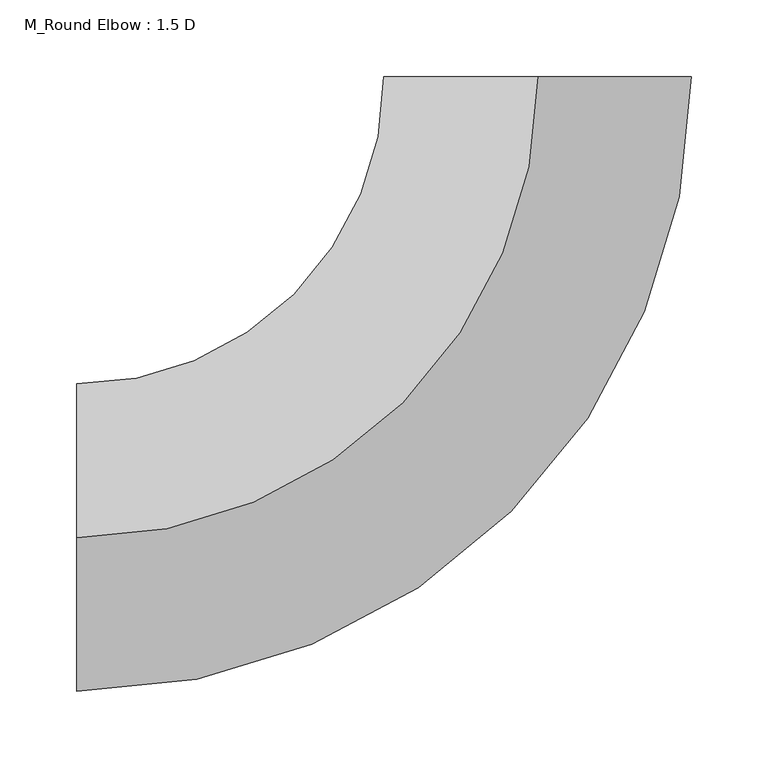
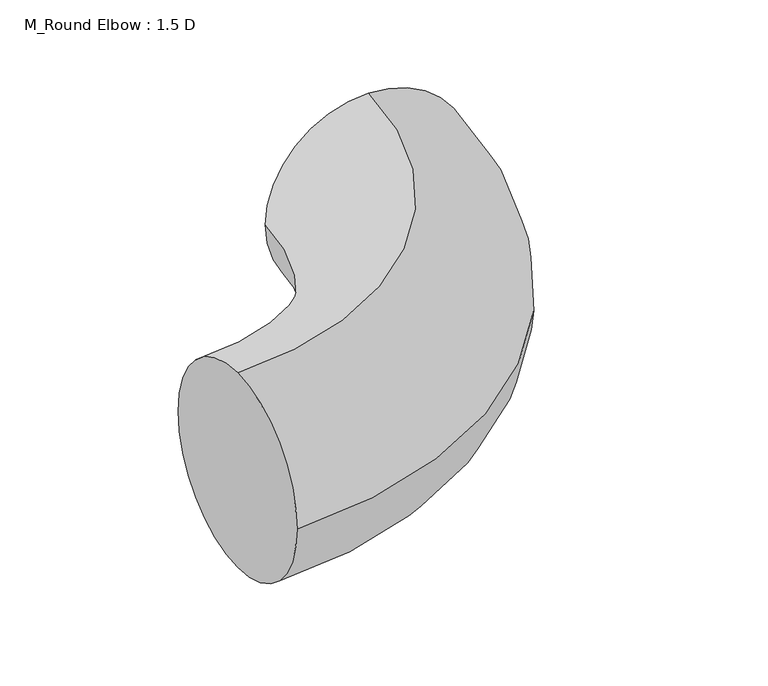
"""IFC4 building model written with IfcOpenShell, lengths in millimetres: duct fitting geometry, M_Round Elbow : 1.5 D."""

from ifc_helpers import new_model, si_unit, point, frame, origin, place, context, project, spatial, circle_curve, ellipse_curve, trimmed, source, transform, mapped, element, save
from ifc_brep_helpers import plane_surface, revolved_surface, advanced_brep


def m_round_elbow_1_5_d_ef943c7d(model_context):
    return source(origin(), model_context, "Body", "AdvancedBrep", [
        advanced_brep(
        [(-299.9996312, 0.0, 100.0), (-299.9996312, 100.0, 0.0), (-299.9996312, 0.0, -100.0), (-299.9996312, -100.0, 0.0), (0.0003688, 299.9996312, 100.0), (100.0003688, 299.9995082, 0.0), (0.0003688, 299.9996312, -100.0), (-99.9996312, 299.9997541, 0.0)],
        [
            (0, 1, circle_curve(frame((-299.9996312, 0.0, 0.0), z_axis=(-1.0, 0.0, 0.0), x_axis=(0.0, 1.0, 0.0)), 100.0)),
            (1, 2, circle_curve(frame((-299.9996312, 0.0, 0.0), z_axis=(-1.0, 0.0, 0.0), x_axis=(0.0, 1.0, 0.0)), 100.0)),
            (2, 3, circle_curve(frame((-299.9996312, 0.0, 0.0), z_axis=(-1.0, 0.0, 0.0), x_axis=(0.0, 1.0, 0.0)), 100.0)),
            (3, 0, circle_curve(frame((-299.9996312, 0.0, 0.0), z_axis=(-1.0, 0.0, 0.0), x_axis=(0.0, 1.0, 0.0)), 100.0)),
            (4, 5, circle_curve(frame((0.0003688, 299.9996312, 0.0), z_axis=(1.2294115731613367e-06, 0.9999999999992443, 0.0), x_axis=(-0.9999999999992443, 1.2294115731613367e-06, 0.0)), 100.0)),
            (5, 6, circle_curve(frame((0.0003688, 299.9996312, 0.0), z_axis=(1.2294115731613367e-06, 0.9999999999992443, 0.0), x_axis=(-0.9999999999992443, 1.2294115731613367e-06, 0.0)), 100.0)),
            (6, 7, circle_curve(frame((0.0003688, 299.9996312, 0.0), z_axis=(1.2294115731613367e-06, 0.9999999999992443, 0.0), x_axis=(-0.9999999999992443, 1.2294115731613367e-06, 0.0)), 100.0)),
            (7, 4, circle_curve(frame((0.0003688, 299.9996312, 0.0), z_axis=(1.2294115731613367e-06, 0.9999999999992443, 0.0), x_axis=(-0.9999999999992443, 1.2294115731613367e-06, 0.0)), 100.0)),
            (7, 1, circle_curve(frame((-299.9996312, 300.0, 0.0), z_axis=(0.0, 0.0, -1.0), x_axis=(0.0, -1.0, 0.0)), 200.0)),
            (0, 4, circle_curve(frame((-299.9996312, 300.0, 100.0), z_axis=(0.0, 0.0, 1.0), x_axis=(0.0, -1.0, 0.0)), 300.0)),
            (6, 2, circle_curve(frame((-299.9996312, 300.0, -100.0), z_axis=(0.0, 0.0, -1.0), x_axis=(0.0, -1.0, 0.0)), 300.0)),
            (5, 3, circle_curve(frame((-299.9996312, 300.0, 0.0), z_axis=(0.0, 0.0, -1.0), x_axis=(0.0, -1.0, 0.0)), 400.0)),
        ],
        [
            plane_surface(frame((-299.9996312, 0.0, 0.0), z_axis=(-1.0, 0.0, 0.0), x_axis=(0.0, 0.0, 1.0))),
            plane_surface(frame((0.0003688, 299.9996312, 0.0), z_axis=(1.2294115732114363e-06, 0.9999999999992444, 0.0), x_axis=(0.0, 0.0, 1.0))),
            revolved_surface(trimmed(ellipse_curve(frame((-299.9996312, 0.0, 0.0), z_axis=(-1.0, 0.0, 0.0), x_axis=(0.0, 1.0, 0.0)), 100.0, 100.0), [point((-299.9996312, 0.0, 100.0))], [point((-299.9996312, 100.0, 0.0))], True, "CARTESIAN"), (-299.9996312, 300.0, 0.0), (0.0, 0.0, 1.0)),
            revolved_surface(trimmed(ellipse_curve(frame((-299.9996312, 0.0, 0.0), z_axis=(-1.0, 0.0, 0.0), x_axis=(0.0, 1.0, 0.0)), 100.0, 100.0), [point((-299.9996312, 100.0, 0.0))], [point((-299.9996312, 0.0, -100.0))], True, "CARTESIAN"), (-299.9996312, 300.0, 0.0), (0.0, 0.0, 1.0)),
            revolved_surface(trimmed(ellipse_curve(frame((-299.9996312, 0.0, 0.0), z_axis=(-1.0, 0.0, 0.0), x_axis=(0.0, 1.0, 0.0)), 100.0, 100.0), [point((-299.9996312, 0.0, -100.0))], [point((-299.9996312, -100.0, 0.0))], True, "CARTESIAN"), (-299.9996312, 300.0, 0.0), (0.0, 0.0, 1.0)),
            revolved_surface(trimmed(ellipse_curve(frame((-299.9996312, 0.0, 0.0), z_axis=(-1.0, 0.0, 0.0), x_axis=(0.0, 1.0, 0.0)), 100.0, 100.0), [point((-299.9996312, -100.0, 0.0))], [point((-299.9996312, 0.0, 100.0))], True, "CARTESIAN"), (-299.9996312, 300.0, 0.0), (0.0, 0.0, 1.0)),
        ],
        [
            (0, [[1, 2, 3, 4]]),
            (1, [[5, 6, 7, 8]]),
            (2, [[9, -1, 10, -8]]),
            (3, [[11, -2, -9, -7]]),
            (4, [[12, -3, -11, -6]]),
            (5, [[-10, -4, -12, -5]]),
        ],
    ),
        advanced_brep(
        [(-299.9996312, 0.0, 100.0), (-299.9996312, 100.0, 0.0), (-299.9996312, 0.0, -100.0), (-299.9996312, -100.0, 0.0), (0.0003688, 299.9996312, 100.0), (100.0003688, 299.9995082, 0.0), (0.0003688, 299.9996312, -100.0), (-99.9996312, 299.9997541, 0.0)],
        [
            (0, 1, circle_curve(frame((-299.9996312, 0.0, 0.0), z_axis=(-1.0, 0.0, 0.0), x_axis=(0.0, 1.0, 0.0)), 100.0)),
            (1, 2, circle_curve(frame((-299.9996312, 0.0, 0.0), z_axis=(-1.0, 0.0, 0.0), x_axis=(0.0, 1.0, 0.0)), 100.0)),
            (2, 3, circle_curve(frame((-299.9996312, 0.0, 0.0), z_axis=(-1.0, 0.0, 0.0), x_axis=(0.0, 1.0, 0.0)), 100.0)),
            (3, 0, circle_curve(frame((-299.9996312, 0.0, 0.0), z_axis=(-1.0, 0.0, 0.0), x_axis=(0.0, 1.0, 0.0)), 100.0)),
            (4, 5, circle_curve(frame((0.0003688, 299.9996312, 0.0), z_axis=(1.2294115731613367e-06, 0.9999999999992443, 0.0), x_axis=(-0.9999999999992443, 1.2294115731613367e-06, 0.0)), 100.0)),
            (5, 6, circle_curve(frame((0.0003688, 299.9996312, 0.0), z_axis=(1.2294115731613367e-06, 0.9999999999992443, 0.0), x_axis=(-0.9999999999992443, 1.2294115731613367e-06, 0.0)), 100.0)),
            (6, 7, circle_curve(frame((0.0003688, 299.9996312, 0.0), z_axis=(1.2294115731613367e-06, 0.9999999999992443, 0.0), x_axis=(-0.9999999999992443, 1.2294115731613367e-06, 0.0)), 100.0)),
            (7, 4, circle_curve(frame((0.0003688, 299.9996312, 0.0), z_axis=(1.2294115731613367e-06, 0.9999999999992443, 0.0), x_axis=(-0.9999999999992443, 1.2294115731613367e-06, 0.0)), 100.0)),
            (7, 1, circle_curve(frame((-299.9996312, 300.0, 0.0), z_axis=(0.0, 0.0, -1.0), x_axis=(0.0, -1.0, 0.0)), 200.0)),
            (0, 4, circle_curve(frame((-299.9996312, 300.0, 100.0), z_axis=(0.0, 0.0, 1.0), x_axis=(0.0, -1.0, 0.0)), 300.0)),
            (6, 2, circle_curve(frame((-299.9996312, 300.0, -100.0), z_axis=(0.0, 0.0, -1.0), x_axis=(0.0, -1.0, 0.0)), 300.0)),
            (5, 3, circle_curve(frame((-299.9996312, 300.0, 0.0), z_axis=(0.0, 0.0, -1.0), x_axis=(0.0, -1.0, 0.0)), 400.0)),
        ],
        [
            plane_surface(frame((-299.9996312, 0.0, 0.0), z_axis=(-1.0, 0.0, 0.0), x_axis=(0.0, 0.0, 1.0))),
            plane_surface(frame((0.0003688, 299.9996312, 0.0), z_axis=(1.2294115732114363e-06, 0.9999999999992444, 0.0), x_axis=(0.0, 0.0, 1.0))),
            revolved_surface(trimmed(ellipse_curve(frame((-299.9996312, 0.0, 0.0), z_axis=(-1.0, 0.0, 0.0), x_axis=(0.0, 1.0, 0.0)), 100.0, 100.0), [point((-299.9996312, 0.0, 100.0))], [point((-299.9996312, 100.0, 0.0))], True, "CARTESIAN"), (-299.9996312, 300.0, 0.0), (0.0, 0.0, 1.0)),
            revolved_surface(trimmed(ellipse_curve(frame((-299.9996312, 0.0, 0.0), z_axis=(-1.0, 0.0, 0.0), x_axis=(0.0, 1.0, 0.0)), 100.0, 100.0), [point((-299.9996312, 100.0, 0.0))], [point((-299.9996312, 0.0, -100.0))], True, "CARTESIAN"), (-299.9996312, 300.0, 0.0), (0.0, 0.0, 1.0)),
            revolved_surface(trimmed(ellipse_curve(frame((-299.9996312, 0.0, 0.0), z_axis=(-1.0, 0.0, 0.0), x_axis=(0.0, 1.0, 0.0)), 100.0, 100.0), [point((-299.9996312, 0.0, -100.0))], [point((-299.9996312, -100.0, 0.0))], True, "CARTESIAN"), (-299.9996312, 300.0, 0.0), (0.0, 0.0, 1.0)),
            revolved_surface(trimmed(ellipse_curve(frame((-299.9996312, 0.0, 0.0), z_axis=(-1.0, 0.0, 0.0), x_axis=(0.0, 1.0, 0.0)), 100.0, 100.0), [point((-299.9996312, -100.0, 0.0))], [point((-299.9996312, 0.0, 100.0))], True, "CARTESIAN"), (-299.9996312, 300.0, 0.0), (0.0, 0.0, 1.0)),
        ],
        [
            (0, [[1, 2, 3, 4]]),
            (1, [[5, 6, 7, 8]]),
            (2, [[9, -1, 10, -8]]),
            (3, [[11, -2, -9, -7]]),
            (4, [[12, -3, -11, -6]]),
            (5, [[-10, -4, -12, -5]]),
        ],
    ),
        advanced_brep(
        [(-299.9996312, 0.0, 100.0), (-299.9996312, 100.0, 0.0), (-299.9996312, 0.0, -100.0), (-299.9996312, -100.0, 0.0), (0.0003688, 299.9996312, 100.0), (100.0003688, 299.9995082, 0.0), (0.0003688, 299.9996312, -100.0), (-99.9996312, 299.9997541, 0.0)],
        [
            (0, 1, circle_curve(frame((-299.9996312, 0.0, 0.0), z_axis=(-1.0, 0.0, 0.0), x_axis=(0.0, 1.0, 0.0)), 100.0)),
            (1, 2, circle_curve(frame((-299.9996312, 0.0, 0.0), z_axis=(-1.0, 0.0, 0.0), x_axis=(0.0, 1.0, 0.0)), 100.0)),
            (2, 3, circle_curve(frame((-299.9996312, 0.0, 0.0), z_axis=(-1.0, 0.0, 0.0), x_axis=(0.0, 1.0, 0.0)), 100.0)),
            (3, 0, circle_curve(frame((-299.9996312, 0.0, 0.0), z_axis=(-1.0, 0.0, 0.0), x_axis=(0.0, 1.0, 0.0)), 100.0)),
            (4, 5, circle_curve(frame((0.0003688, 299.9996312, 0.0), z_axis=(1.2294115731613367e-06, 0.9999999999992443, 0.0), x_axis=(-0.9999999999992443, 1.2294115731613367e-06, 0.0)), 100.0)),
            (5, 6, circle_curve(frame((0.0003688, 299.9996312, 0.0), z_axis=(1.2294115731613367e-06, 0.9999999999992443, 0.0), x_axis=(-0.9999999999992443, 1.2294115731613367e-06, 0.0)), 100.0)),
            (6, 7, circle_curve(frame((0.0003688, 299.9996312, 0.0), z_axis=(1.2294115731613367e-06, 0.9999999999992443, 0.0), x_axis=(-0.9999999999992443, 1.2294115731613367e-06, 0.0)), 100.0)),
            (7, 4, circle_curve(frame((0.0003688, 299.9996312, 0.0), z_axis=(1.2294115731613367e-06, 0.9999999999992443, 0.0), x_axis=(-0.9999999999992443, 1.2294115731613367e-06, 0.0)), 100.0)),
            (7, 1, circle_curve(frame((-299.9996312, 300.0, 0.0), z_axis=(0.0, 0.0, -1.0), x_axis=(0.0, -1.0, 0.0)), 200.0)),
            (0, 4, circle_curve(frame((-299.9996312, 300.0, 100.0), z_axis=(0.0, 0.0, 1.0), x_axis=(0.0, -1.0, 0.0)), 300.0)),
            (6, 2, circle_curve(frame((-299.9996312, 300.0, -100.0), z_axis=(0.0, 0.0, -1.0), x_axis=(0.0, -1.0, 0.0)), 300.0)),
            (5, 3, circle_curve(frame((-299.9996312, 300.0, 0.0), z_axis=(0.0, 0.0, -1.0), x_axis=(0.0, -1.0, 0.0)), 400.0)),
        ],
        [
            plane_surface(frame((-299.9996312, 0.0, 0.0), z_axis=(-1.0, 0.0, 0.0), x_axis=(0.0, 0.0, 1.0))),
            plane_surface(frame((0.0003688, 299.9996312, 0.0), z_axis=(1.2294115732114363e-06, 0.9999999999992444, 0.0), x_axis=(0.0, 0.0, 1.0))),
            revolved_surface(trimmed(ellipse_curve(frame((-299.9996312, 0.0, 0.0), z_axis=(-1.0, 0.0, 0.0), x_axis=(0.0, 1.0, 0.0)), 100.0, 100.0), [point((-299.9996312, 0.0, 100.0))], [point((-299.9996312, 100.0, 0.0))], True, "CARTESIAN"), (-299.9996312, 300.0, 0.0), (0.0, 0.0, 1.0)),
            revolved_surface(trimmed(ellipse_curve(frame((-299.9996312, 0.0, 0.0), z_axis=(-1.0, 0.0, 0.0), x_axis=(0.0, 1.0, 0.0)), 100.0, 100.0), [point((-299.9996312, 100.0, 0.0))], [point((-299.9996312, 0.0, -100.0))], True, "CARTESIAN"), (-299.9996312, 300.0, 0.0), (0.0, 0.0, 1.0)),
            revolved_surface(trimmed(ellipse_curve(frame((-299.9996312, 0.0, 0.0), z_axis=(-1.0, 0.0, 0.0), x_axis=(0.0, 1.0, 0.0)), 100.0, 100.0), [point((-299.9996312, 0.0, -100.0))], [point((-299.9996312, -100.0, 0.0))], True, "CARTESIAN"), (-299.9996312, 300.0, 0.0), (0.0, 0.0, 1.0)),
            revolved_surface(trimmed(ellipse_curve(frame((-299.9996312, 0.0, 0.0), z_axis=(-1.0, 0.0, 0.0), x_axis=(0.0, 1.0, 0.0)), 100.0, 100.0), [point((-299.9996312, -100.0, 0.0))], [point((-299.9996312, 0.0, 100.0))], True, "CARTESIAN"), (-299.9996312, 300.0, 0.0), (0.0, 0.0, 1.0)),
        ],
        [
            (0, [[1, 2, 3, 4]]),
            (1, [[5, 6, 7, 8]]),
            (2, [[9, -1, 10, -8]]),
            (3, [[11, -2, -9, -7]]),
            (4, [[12, -3, -11, -6]]),
            (5, [[-10, -4, -12, -5]]),
        ],
    ),
    ])


if __name__ == "__main__":
    model = new_model("IFC4")
    model_context = context("Model", 3, world=origin())
    ifc_project = project(units=[si_unit("LENGTHUNIT", "METRE", prefix="MILLI")], contexts=[model_context])
    site = spatial("IfcSite", under=ifc_project)
    building = spatial("IfcBuilding", under=site)
    placement = place(None, origin())
    m_round_elbow_1_5_d_shape = m_round_elbow_1_5_d_ef943c7d(model_context)
    element("IfcDuctFitting", 1, ObjectType="M_Round Elbow : 1.5 D", at=placement, inside=building, context=model_context, shape_type="MappedRepresentation", body=[
        mapped(m_round_elbow_1_5_d_shape, transform((0.0, 0.0, 0.0), x_axis=(1.0, 0.0, 0.0), y_axis=(0.0, 1.0, 0.0), z_axis=(0.0, 0.0, 1.0))),
    ])
    save(model, "model.ifc")
